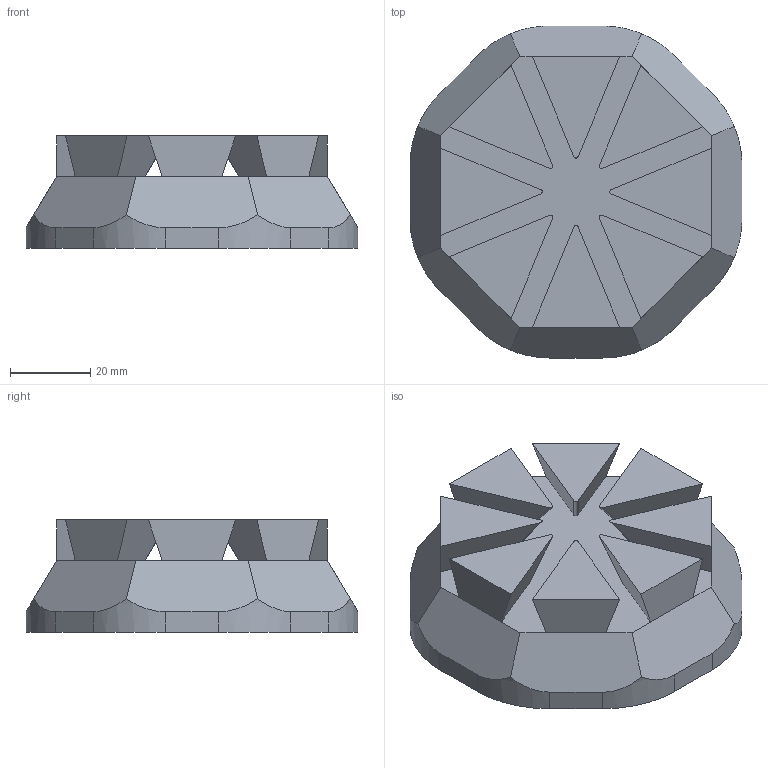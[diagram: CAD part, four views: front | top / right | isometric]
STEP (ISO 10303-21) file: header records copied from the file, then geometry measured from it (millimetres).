
FILE_DESCRIPTION(/* description */ (''),/* implementation_level */ '2;1');
FILE_NAME(/* name */ 'E:\eight way toy\base.stp',/* time_stamp */ '2014-05-22T07:51:52-04:00',/* author */ ('PLTW'),/* organization */ (''),/* preprocessor_version */ 'ST-DEVELOPER v15.2',/* originating_system */ 'Autodesk Inventor 2014',/* authorisation */ '');
FILE_SCHEMA (('AUTOMOTIVE_DESIGN { 1 0 10303 214 3 1 1 }'));
Length unit declared in the file: inch
Products named in the file (1): base
Bounding box: 82.55 x 82.55 x 27.94 mm (x, y, z)
Volume: 103793.5 mm3; surface area: 20920.2 mm2
Topology: 1 solids, 1 shells, 66 faces, 176 edges, 112 vertices
Faces by surface type: plane 50, cylinder 16
Entity records: 2063 total; most frequent: CARTESIAN_POINT 355, ORIENTED_EDGE 352, DIRECTION 350, EDGE_CURVE 176, LINE 136, VECTOR 136, VERTEX_POINT 112, AXIS2_PLACEMENT_3D 107
